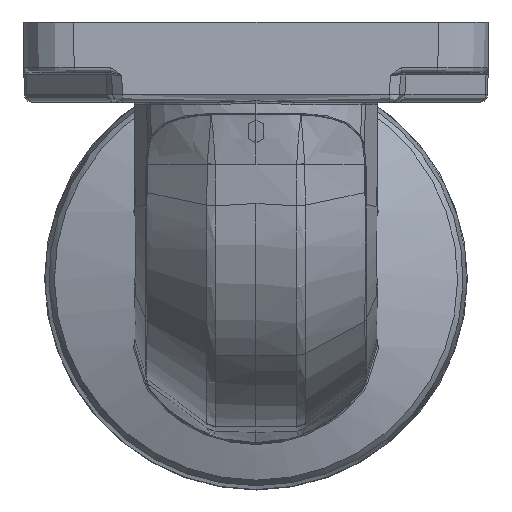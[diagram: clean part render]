
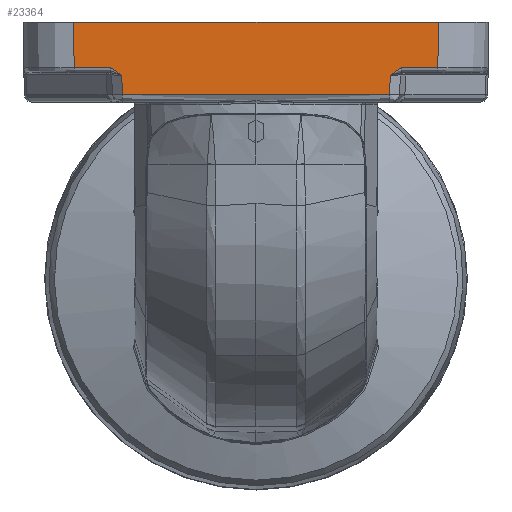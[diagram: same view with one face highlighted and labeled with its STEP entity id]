
A CAD part, front view. The second image highlights one B-rep face of the part: STEP entity #23364.
In plain terms, the highlighted planar face has unit normal (0, -1, -0.009).
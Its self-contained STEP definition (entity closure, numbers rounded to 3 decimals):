
#20667=FACE_OUTER_BOUND('',#31312,.T.);
#23364=ADVANCED_FACE('',(#20667),#24781,.T.);
#24781=PLANE('',#56348);
#25480=LINE('',#83449,#26664);
#25481=LINE('',#83475,#26665);
#25485=LINE('',#83513,#26669);
#25641=LINE('',#88327,#26825);
#25670=LINE('',#88546,#26854);
#25673=LINE('',#88560,#26857);
#25674=LINE('',#88562,#26858);
#25675=LINE('',#88571,#26859);
#26664=VECTOR('',#61075,1.);
#26665=VECTOR('',#61078,1.);
#26669=VECTOR('',#61092,1.);
#26825=VECTOR('',#62426,1.);
#26854=VECTOR('',#62523,1.);
#26857=VECTOR('',#62530,1.);
#26858=VECTOR('',#62531,1.);
#26859=VECTOR('',#62532,1.);
#27952=B_SPLINE_CURVE_WITH_KNOTS('',3,(#83451,#83452,#83453,#83454,#83455,
#83456),.UNSPECIFIED.,.F.,.F.,(4,2,4),(0.,0.5,1.),.UNSPECIFIED.);
#28130=B_SPLINE_CURVE_WITH_KNOTS('',3,(#88564,#88565,#88566,#88567,#88568,
#88569),.UNSPECIFIED.,.F.,.F.,(4,2,4),(0.,0.5,1.),.UNSPECIFIED.);
#31312=EDGE_LOOP('',(#38111,#38112,#38113,#38114,#38115,#38116,#38117,#38118,
#38119,#38120));
#38111=ORIENTED_EDGE('',*,*,#49773,.T.);
#38112=ORIENTED_EDGE('',*,*,#49845,.T.);
#38113=ORIENTED_EDGE('',*,*,#49846,.T.);
#38114=ORIENTED_EDGE('',*,*,#49847,.T.);
#38115=ORIENTED_EDGE('',*,*,#49848,.T.);
#38116=ORIENTED_EDGE('',*,*,#49840,.F.);
#38117=ORIENTED_EDGE('',*,*,#49016,.F.);
#38118=ORIENTED_EDGE('',*,*,#49015,.F.);
#38119=ORIENTED_EDGE('',*,*,#49014,.F.);
#38120=ORIENTED_EDGE('',*,*,#49024,.F.);
#44663=VERTEX_POINT('',#79579);
#44705=VERTEX_POINT('',#80081);
#44930=VERTEX_POINT('',#83448);
#44931=VERTEX_POINT('',#83476);
#44935=VERTEX_POINT('',#83512);
#45415=VERTEX_POINT('',#88326);
#45478=VERTEX_POINT('',#88547);
#45481=VERTEX_POINT('',#88561);
#45482=VERTEX_POINT('',#88563);
#45483=VERTEX_POINT('',#88570);
#49014=EDGE_CURVE('',#44705,#44930,#25480,.T.);
#49015=EDGE_CURVE('',#44930,#44663,#27952,.T.);
#49016=EDGE_CURVE('',#44663,#44931,#25481,.T.);
#49024=EDGE_CURVE('',#44935,#44705,#25485,.T.);
#49773=EDGE_CURVE('',#44935,#45415,#25641,.T.);
#49840=EDGE_CURVE('',#44931,#45478,#25670,.T.);
#49845=EDGE_CURVE('',#45415,#45481,#25673,.T.);
#49846=EDGE_CURVE('',#45481,#45482,#25674,.T.);
#49847=EDGE_CURVE('',#45482,#45483,#28130,.T.);
#49848=EDGE_CURVE('',#45483,#45478,#25675,.T.);
#56348=AXIS2_PLACEMENT_3D('',#88572,#62533,#62534);
#61075=DIRECTION('',(-1.,0.,0.));
#61078=DIRECTION('',(-0.035,0.009,-0.999));
#61092=DIRECTION('',(-0.009,0.009,-1.));
#62426=DIRECTION('',(-1.,0.,0.));
#62523=DIRECTION('',(-1.,0.,0.));
#62530=DIRECTION('',(0.009,0.009,-1.));
#62531=DIRECTION('',(1.,0.,0.));
#62532=DIRECTION('',(0.035,0.009,-0.999));
#62533=DIRECTION('',(0.,-1.,-0.009));
#62534=DIRECTION('',(0.,0.009,-1.));
#79579=CARTESIAN_POINT('',(478.688,1107.97,-34.277));
#80081=CARTESIAN_POINT('',(497.675,1107.944,-31.303));
#83448=CARTESIAN_POINT('',(483.261,1107.944,-31.303));
#83449=CARTESIAN_POINT('',(632.606,1107.944,-31.303));
#83451=CARTESIAN_POINT('',(483.261,1107.944,-31.303));
#83452=CARTESIAN_POINT('',(482.31,1107.944,-31.303));
#83453=CARTESIAN_POINT('',(481.395,1107.947,-31.692));
#83454=CARTESIAN_POINT('',(479.896,1107.957,-32.814));
#83455=CARTESIAN_POINT('',(479.287,1107.963,-33.546));
#83456=CARTESIAN_POINT('',(478.688,1107.97,-34.277));
#83475=CARTESIAN_POINT('',(478.317,1108.062,-44.911));
#83476=CARTESIAN_POINT('',(478.417,1108.038,-42.062));
#83512=CARTESIAN_POINT('',(497.833,1107.785,-13.136));
#83513=CARTESIAN_POINT('',(497.843,1107.775,-11.975));
#88326=CARTESIAN_POINT('',(352.532,1107.785,-13.136));
#88327=CARTESIAN_POINT('',(333.236,1107.785,-13.136));
#88546=CARTESIAN_POINT('',(632.606,1108.038,-42.062));
#88547=CARTESIAN_POINT('',(371.948,1108.038,-42.062));
#88560=CARTESIAN_POINT('',(352.522,1107.775,-11.975));
#88561=CARTESIAN_POINT('',(352.69,1107.944,-31.303));
#88562=CARTESIAN_POINT('',(217.759,1107.944,-31.303));
#88563=CARTESIAN_POINT('',(367.103,1107.944,-31.303));
#88564=CARTESIAN_POINT('',(367.103,1107.944,-31.303));
#88565=CARTESIAN_POINT('',(368.055,1107.944,-31.303));
#88566=CARTESIAN_POINT('',(368.97,1107.947,-31.692));
#88567=CARTESIAN_POINT('',(370.469,1107.957,-32.814));
#88568=CARTESIAN_POINT('',(371.078,1107.963,-33.546));
#88569=CARTESIAN_POINT('',(371.676,1107.97,-34.277));
#88570=CARTESIAN_POINT('',(371.676,1107.97,-34.277));
#88571=CARTESIAN_POINT('',(372.048,1108.062,-44.911));
#88572=CARTESIAN_POINT('',(632.606,1107.785,-13.151));
